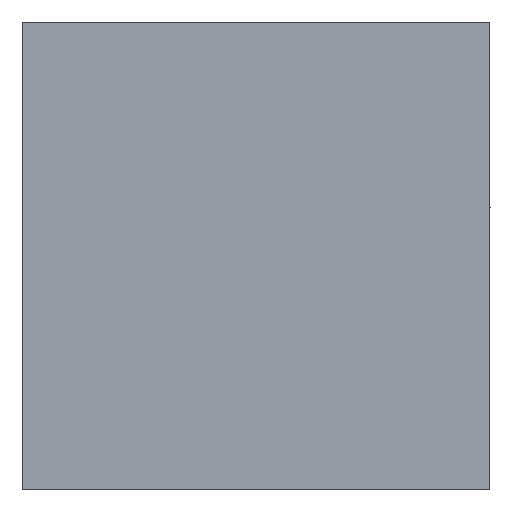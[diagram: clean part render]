
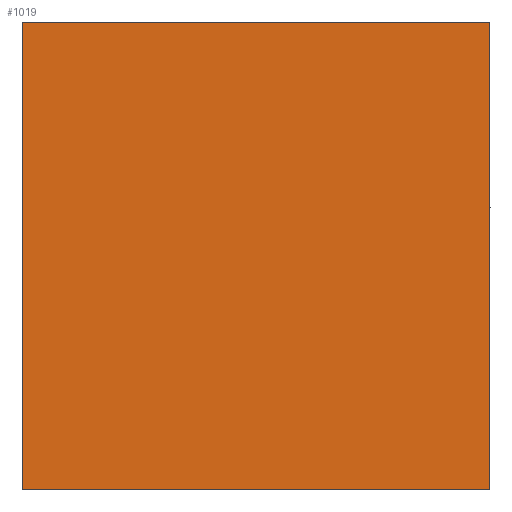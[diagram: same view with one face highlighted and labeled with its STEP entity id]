
A CAD part, front view. The second image highlights one B-rep face of the part: STEP entity #1019.
In plain terms, the highlighted planar face has unit normal (0, -1, 0).
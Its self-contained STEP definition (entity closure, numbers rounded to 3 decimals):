
#547=CARTESIAN_POINT('Vertex',(-17.5,0.,17.5)) ;
#550=CARTESIAN_POINT('Line Origine',(0.,0.,17.5)) ;
#554=CARTESIAN_POINT('Vertex',(17.5,0.,17.5)) ;
#580=CARTESIAN_POINT('Vertex',(17.5,0.,-17.5)) ;
#583=CARTESIAN_POINT('Line Origine',(17.5,0.,0.)) ;
#769=CARTESIAN_POINT('Vertex',(-17.5,0.,-17.5)) ;
#772=CARTESIAN_POINT('Line Origine',(0.,0.,-17.5)) ;
#927=CARTESIAN_POINT('Line Origine',(-17.5,0.,0.)) ;
#1008=CARTESIAN_POINT('Axis2P3D Location',(0.,0.,-0.)) ;
#551=DIRECTION('Vector Direction',(1.,0.,0.)) ;
#584=DIRECTION('Vector Direction',(0.,0.,-1.)) ;
#773=DIRECTION('Vector Direction',(-1.,0.,0.)) ;
#928=DIRECTION('Vector Direction',(0.,0.,1.)) ;
#1009=DIRECTION('Axis2P3D Direction',(0.,1.,-0.)) ;
#1010=DIRECTION('Axis2P3D XDirection',(0.,0.,1.)) ;
#1011=AXIS2_PLACEMENT_3D('Plane Axis2P3D',#1008,#1009,#1010) ;
#1014=ORIENTED_EDGE('',*,*,#776,.F.) ;
#1015=ORIENTED_EDGE('',*,*,#587,.F.) ;
#1016=ORIENTED_EDGE('',*,*,#556,.F.) ;
#1017=ORIENTED_EDGE('',*,*,#931,.F.) ;
#552=VECTOR('Line Direction',#551,1.) ;
#585=VECTOR('Line Direction',#584,1.) ;
#774=VECTOR('Line Direction',#773,1.) ;
#929=VECTOR('Line Direction',#928,1.) ;
#1019=ADVANCED_FACE('395V-04-035-100',(#1018),#1012,.F.) ;
#556=EDGE_CURVE('',#548,#555,#553,.T.) ;
#587=EDGE_CURVE('',#555,#581,#586,.T.) ;
#776=EDGE_CURVE('',#581,#770,#775,.T.) ;
#931=EDGE_CURVE('',#770,#548,#930,.T.) ;
#1013=EDGE_LOOP('',(#1014,#1015,#1016,#1017)) ;
#1018=FACE_OUTER_BOUND('',#1013,.T.) ;
#553=LINE('Line',#550,#552) ;
#586=LINE('Line',#583,#585) ;
#775=LINE('Line',#772,#774) ;
#930=LINE('Line',#927,#929) ;
#1012=PLANE('Plane',#1011) ;
#548=VERTEX_POINT('',#547) ;
#555=VERTEX_POINT('',#554) ;
#581=VERTEX_POINT('',#580) ;
#770=VERTEX_POINT('',#769) ;
